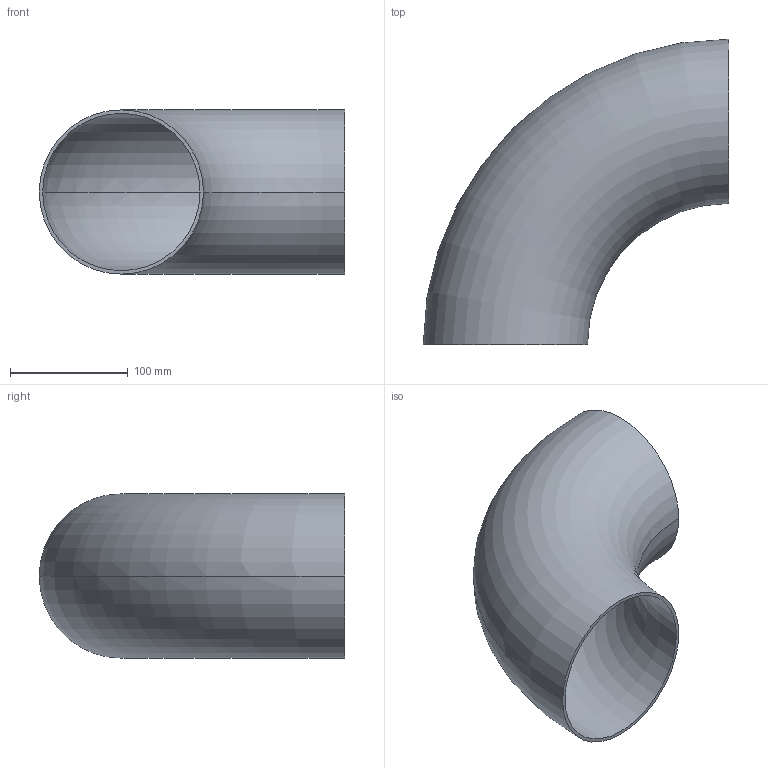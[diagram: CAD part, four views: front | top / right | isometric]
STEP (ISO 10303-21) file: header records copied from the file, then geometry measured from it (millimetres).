
FILE_DESCRIPTION (( 'STEP AP203' ), '1' );
FILE_NAME ('OT200-125-139_7x2_9_OSTP.step', '2020-12-16T02:46:23', ( '' ), ( '' ), 'SwSTEP 2.0', 'SolidWorks 2014', '' );
FILE_SCHEMA (( 'CONFIG_CONTROL_DESIGN' ));
Length unit declared in the file: millimetre
Products named in the file (1): OT200-125-139_7x2_9_OSTP
Bounding box: 259.85 x 259.85 x 139.7 mm (x, y, z)
Volume: 371969.6 mm3; surface area: 259023.4 mm2
Topology: 1 solids, 1 shells, 6 faces, 12 edges, 8 vertices
Faces by surface type: torus 4, plane 2
Entity records: 249 total; most frequent: DIRECTION 38, CARTESIAN_POINT 27, ORIENTED_EDGE 24, AXIS2_PLACEMENT_3D 19, EDGE_CURVE 12, CIRCLE 12, EDGE_LOOP 8, PERSON_AND_ORGANIZATION 8
